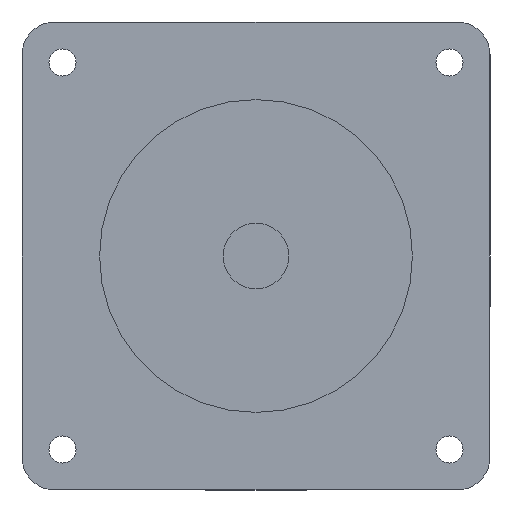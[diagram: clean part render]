
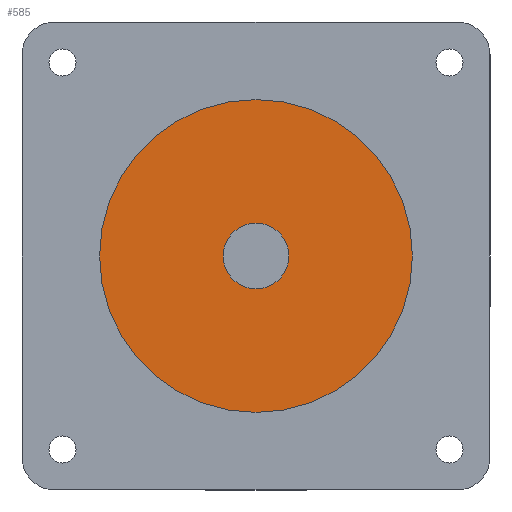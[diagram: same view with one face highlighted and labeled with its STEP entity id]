
A CAD part, front view. The second image highlights one B-rep face of the part: STEP entity #585.
In plain terms, the highlighted planar face has unit normal (0, -1, 0).
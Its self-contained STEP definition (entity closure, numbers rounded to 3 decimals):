
#105 = CARTESIAN_POINT ( 'NONE',  ( 0., -41., 0. ) ) ;
#124 = CARTESIAN_POINT ( 'NONE',  ( 0., -41., 4. ) ) ;
#180 = DIRECTION ( 'NONE',  ( 0., -1., 0. ) ) ;
#206 = CIRCLE ( 'NONE', #1578, 19.05 ) ;
#276 = VERTEX_POINT ( 'NONE', #1753 ) ;
#285 = DIRECTION ( 'NONE',  ( 0., 0., -1. ) ) ;
#312 = CARTESIAN_POINT ( 'NONE',  ( 0., -41., 19.05 ) ) ;
#343 = AXIS2_PLACEMENT_3D ( 'NONE', #105, #1328, #285 ) ;
#437 = CIRCLE ( 'NONE', #1664, 19.05 ) ;
#439 = FACE_OUTER_BOUND ( 'NONE', #1270, .T. ) ;
#441 = FACE_BOUND ( 'NONE', #746, .T. ) ;
#505 = ORIENTED_EDGE ( 'NONE', *, *, #1456, .F. ) ;
#573 = DIRECTION ( 'NONE',  ( 0., -1., 0. ) ) ;
#585 = ADVANCED_FACE ( 'NONE', ( #441, #439 ), #1315, .T. ) ;
#746 = EDGE_LOOP ( 'NONE', ( #1692, #505 ) ) ;
#802 = DIRECTION ( 'NONE',  ( 0., -1., 0. ) ) ;
#977 = DIRECTION ( 'NONE',  ( 0., -1., 0. ) ) ;
#1104 = EDGE_CURVE ( 'NONE', #1658, #276, #206, .T. ) ;
#1235 = CARTESIAN_POINT ( 'NONE',  ( 0., -41., 0. ) ) ;
#1242 = ORIENTED_EDGE ( 'NONE', *, *, #1836, .T. ) ;
#1270 = EDGE_LOOP ( 'NONE', ( #1242, #1988 ) ) ;
#1315 = PLANE ( 'NONE',  #1823 ) ;
#1328 = DIRECTION ( 'NONE',  ( 0., -1., 0. ) ) ;
#1404 = DIRECTION ( 'NONE',  ( 0., 0., -1. ) ) ;
#1455 = CIRCLE ( 'NONE', #2093, 4. ) ;
#1456 = EDGE_CURVE ( 'NONE', #2034, #1827, #1455, .T. ) ;
#1483 = CARTESIAN_POINT ( 'NONE',  ( 0., -41., 0. ) ) ;
#1564 = CARTESIAN_POINT ( 'NONE',  ( 0., -41., -4. ) ) ;
#1578 = AXIS2_PLACEMENT_3D ( 'NONE', #1835, #802, #2005 ) ;
#1609 = CARTESIAN_POINT ( 'NONE',  ( 0., -41., 0. ) ) ;
#1658 = VERTEX_POINT ( 'NONE', #312 ) ;
#1664 = AXIS2_PLACEMENT_3D ( 'NONE', #1235, #180, #1404 ) ;
#1692 = ORIENTED_EDGE ( 'NONE', *, *, #1949, .F. ) ;
#1753 = CARTESIAN_POINT ( 'NONE',  ( 0., -41., -19.05 ) ) ;
#1783 = DIRECTION ( 'NONE',  ( 0., 0., -1. ) ) ;
#1823 = AXIS2_PLACEMENT_3D ( 'NONE', #1483, #977, #2163 ) ;
#1827 = VERTEX_POINT ( 'NONE', #1564 ) ;
#1835 = CARTESIAN_POINT ( 'NONE',  ( 0., -41., 0. ) ) ;
#1836 = EDGE_CURVE ( 'NONE', #276, #1658, #437, .T. ) ;
#1949 = EDGE_CURVE ( 'NONE', #1827, #2034, #2172, .T. ) ;
#1988 = ORIENTED_EDGE ( 'NONE', *, *, #1104, .T. ) ;
#2005 = DIRECTION ( 'NONE',  ( 0., 0., -1. ) ) ;
#2034 = VERTEX_POINT ( 'NONE', #124 ) ;
#2093 = AXIS2_PLACEMENT_3D ( 'NONE', #1609, #573, #1783 ) ;
#2163 = DIRECTION ( 'NONE',  ( 0., 0., -1. ) ) ;
#2172 = CIRCLE ( 'NONE', #343, 4. ) ;
